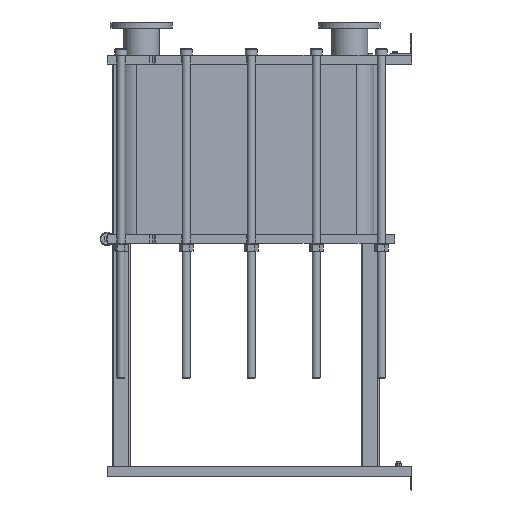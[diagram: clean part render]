
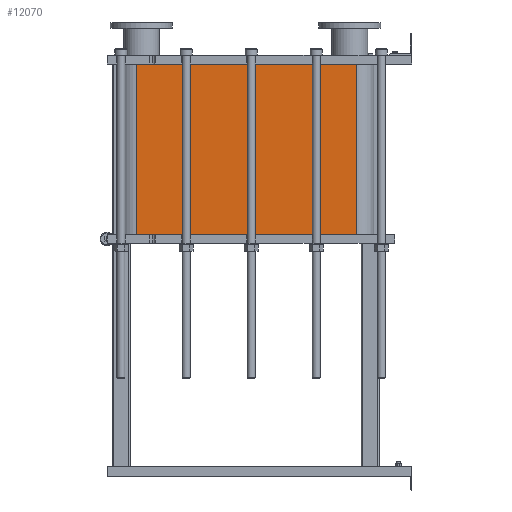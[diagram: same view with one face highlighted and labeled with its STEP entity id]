
A CAD part, left-side view. The second image highlights one B-rep face of the part: STEP entity #12070.
In plain terms, the highlighted planar face has unit normal (-1, 0, 0).
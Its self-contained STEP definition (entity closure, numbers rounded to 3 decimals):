
#1064=LINE('',#21140,#2164);
#1065=LINE('',#21144,#2165);
#1066=LINE('',#21146,#2166);
#1067=LINE('',#21147,#2167);
#2164=VECTOR('',#15790,10.);
#2165=VECTOR('',#15795,10.);
#2166=VECTOR('',#15796,10.);
#2167=VECTOR('',#15797,10.);
#3304=FACE_OUTER_BOUND('',#4091,.T.);
#4091=EDGE_LOOP('',(#9793,#9794,#9795,#9796));
#5677=VERTEX_POINT('',#21137);
#5678=VERTEX_POINT('',#21139);
#5679=VERTEX_POINT('',#21143);
#5680=VERTEX_POINT('',#21145);
#7118=EDGE_CURVE('',#5678,#5677,#1064,.T.);
#7120=EDGE_CURVE('',#5677,#5679,#1065,.T.);
#7121=EDGE_CURVE('',#5680,#5679,#1066,.T.);
#7122=EDGE_CURVE('',#5680,#5678,#1067,.T.);
#9793=ORIENTED_EDGE('',*,*,#7120,.T.);
#9794=ORIENTED_EDGE('',*,*,#7121,.F.);
#9795=ORIENTED_EDGE('',*,*,#7122,.T.);
#9796=ORIENTED_EDGE('',*,*,#7118,.T.);
#11441=PLANE('',#13191);
#12070=ADVANCED_FACE('',(#3304),#11441,.T.);
#13191=AXIS2_PLACEMENT_3D('',#21142,#15793,#15794);
#15790=DIRECTION('',(0.,0.,-1.));
#15793=DIRECTION('center_axis',(-1.,0.,0.));
#15794=DIRECTION('ref_axis',(0.,1.,0.));
#15795=DIRECTION('',(0.,-1.,0.));
#15796=DIRECTION('',(0.,0.,-1.));
#15797=DIRECTION('',(0.,1.,0.));
#21137=CARTESIAN_POINT('',(-248.152,1243.818,-769.35));
#21139=CARTESIAN_POINT('',(-248.152,1243.818,0.));
#21140=CARTESIAN_POINT('',(-248.152,1243.818,0.));
#21142=CARTESIAN_POINT('Origin',(-248.152,251.818,0.));
#21143=CARTESIAN_POINT('',(-248.152,251.818,-769.35));
#21144=CARTESIAN_POINT('',(-248.152,499.818,-769.35));
#21145=CARTESIAN_POINT('',(-248.152,251.818,0.));
#21146=CARTESIAN_POINT('',(-248.152,251.818,0.));
#21147=CARTESIAN_POINT('',(-248.152,251.818,0.));
